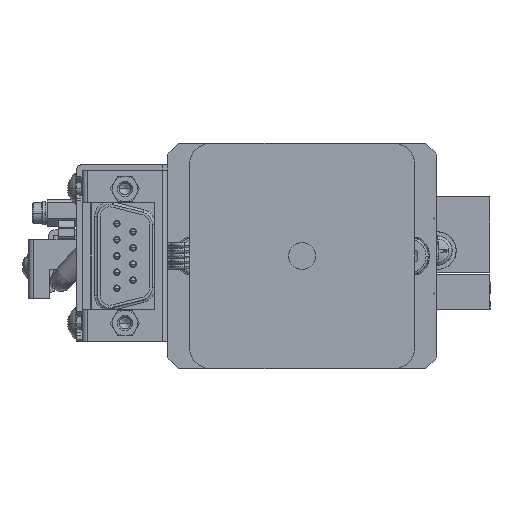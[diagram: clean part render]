
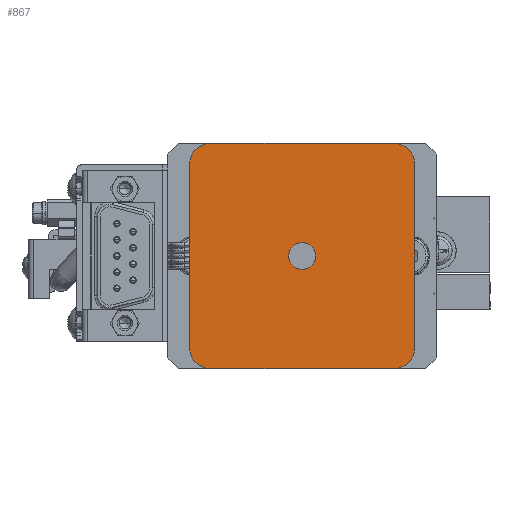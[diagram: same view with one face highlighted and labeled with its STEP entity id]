
A CAD part, left-side view. The second image highlights one B-rep face of the part: STEP entity #867.
In plain terms, the highlighted planar face has unit normal (-1, 0, 0).
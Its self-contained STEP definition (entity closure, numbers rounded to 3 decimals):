
#867=ADVANCED_FACE('',(#10820,#10821),#10819,.T.);
#10819=PLANE('',#38986);
#10820=FACE_OUTER_BOUND('',#38987,.T.);
#10821=FACE_BOUND('',#38988,.T.);
#38983=CARTESIAN_POINT('',(-133.,-25.2,35.2));
#38984=DIRECTION('',(-1.,0.,0.));
#38985=DIRECTION('',(0.,1.,0.));
#38986=AXIS2_PLACEMENT_3D('',#38983,#38984,#38985);
#38987=EDGE_LOOP('',(#58107,#58108,#58109,#58110,#58111,#58112,#58113,#58114));
#38988=EDGE_LOOP('',(#58115,#58116));
#58107=ORIENTED_EDGE('',*,*,#71191,.F.);
#58108=ORIENTED_EDGE('',*,*,#71192,.T.);
#58109=ORIENTED_EDGE('',*,*,#71193,.F.);
#58110=ORIENTED_EDGE('',*,*,#71194,.T.);
#58111=ORIENTED_EDGE('',*,*,#71195,.F.);
#58112=ORIENTED_EDGE('',*,*,#71196,.T.);
#58113=ORIENTED_EDGE('',*,*,#71197,.F.);
#58114=ORIENTED_EDGE('',*,*,#71198,.T.);
#58115=ORIENTED_EDGE('',*,*,#71199,.F.);
#58116=ORIENTED_EDGE('',*,*,#71200,.F.);
#71191=EDGE_CURVE('',#88662,#88663,#88664,.T.);
#71192=EDGE_CURVE('',#88662,#88670,#88671,.T.);
#71193=EDGE_CURVE('',#88677,#88670,#88678,.T.);
#71194=EDGE_CURVE('',#88677,#88684,#88685,.T.);
#71195=EDGE_CURVE('',#88691,#88684,#88692,.T.);
#71196=EDGE_CURVE('',#88691,#88698,#88699,.T.);
#71197=EDGE_CURVE('',#88705,#88698,#88706,.T.);
#71198=EDGE_CURVE('',#88705,#88663,#88712,.T.);
#71199=EDGE_CURVE('',#88718,#88719,#88720,.T.);
#71200=EDGE_CURVE('',#88719,#88718,#88726,.T.);
#88662=VERTEX_POINT('',#132773);
#88663=VERTEX_POINT('',#132774);
#88664=LINE('',#132775,#132776);
#88670=VERTEX_POINT('',#132778);
#88671=CIRCLE('',#132782,4.);
#88677=VERTEX_POINT('',#132783);
#88678=LINE('',#132784,#132785);
#88684=VERTEX_POINT('',#132787);
#88685=CIRCLE('',#132791,4.);
#88691=VERTEX_POINT('',#132792);
#88692=LINE('',#132793,#132794);
#88698=VERTEX_POINT('',#132796);
#88699=CIRCLE('',#132800,4.);
#88705=VERTEX_POINT('',#132801);
#88706=LINE('',#132802,#132803);
#88712=CIRCLE('',#132808,4.);
#88718=VERTEX_POINT('',#132809);
#88719=VERTEX_POINT('',#132810);
#88720=CIRCLE('',#132814,2.5);
#88726=CIRCLE('',#132818,2.5);
#132773=CARTESIAN_POINT('',(-133.,17.,31.));
#132774=CARTESIAN_POINT('',(-133.,-17.,31.));
#132775=CARTESIAN_POINT('',(-133.,17.,31.));
#132776=VECTOR('',#132777,34.);
#132777=DIRECTION('',(0.,-1.,0.));
#132778=CARTESIAN_POINT('',(-133.,21.,27.));
#132779=CARTESIAN_POINT('',(-133.,17.,27.));
#132780=DIRECTION('',(-1.,0.,0.));
#132781=DIRECTION('',(0.,-1.,0.));
#132782=AXIS2_PLACEMENT_3D('',#132779,#132780,#132781);
#132783=CARTESIAN_POINT('',(-133.,21.,-7.));
#132784=CARTESIAN_POINT('',(-133.,21.,-7.));
#132785=VECTOR('',#132786,34.);
#132786=DIRECTION('',(0.,0.,1.));
#132787=CARTESIAN_POINT('',(-133.,17.,-11.));
#132788=CARTESIAN_POINT('',(-133.,17.,-7.));
#132789=DIRECTION('',(-1.,0.,0.));
#132790=DIRECTION('',(0.,-1.,0.));
#132791=AXIS2_PLACEMENT_3D('',#132788,#132789,#132790);
#132792=CARTESIAN_POINT('',(-133.,-17.,-11.));
#132793=CARTESIAN_POINT('',(-133.,-17.,-11.));
#132794=VECTOR('',#132795,34.);
#132795=DIRECTION('',(0.,1.,0.));
#132796=CARTESIAN_POINT('',(-133.,-21.,-7.));
#132797=CARTESIAN_POINT('',(-133.,-17.,-7.));
#132798=DIRECTION('',(-1.,0.,0.));
#132799=DIRECTION('',(0.,-1.,0.));
#132800=AXIS2_PLACEMENT_3D('',#132797,#132798,#132799);
#132801=CARTESIAN_POINT('',(-133.,-21.,27.));
#132802=CARTESIAN_POINT('',(-133.,-21.,27.));
#132803=VECTOR('',#132804,34.);
#132804=DIRECTION('',(0.,0.,-1.));
#132805=CARTESIAN_POINT('',(-133.,-17.,27.));
#132806=DIRECTION('',(-1.,0.,0.));
#132807=DIRECTION('',(0.,-1.,0.));
#132808=AXIS2_PLACEMENT_3D('',#132805,#132806,#132807);
#132809=CARTESIAN_POINT('',(-133.,-2.5,10.));
#132810=CARTESIAN_POINT('',(-133.,2.5,10.));
#132811=CARTESIAN_POINT('',(-133.,0.,10.));
#132812=DIRECTION('',(-1.,0.,0.));
#132813=DIRECTION('',(0.,1.,0.));
#132814=AXIS2_PLACEMENT_3D('',#132811,#132812,#132813);
#132815=CARTESIAN_POINT('',(-133.,0.,10.));
#132816=DIRECTION('',(-1.,0.,0.));
#132817=DIRECTION('',(0.,1.,0.));
#132818=AXIS2_PLACEMENT_3D('',#132815,#132816,#132817);
